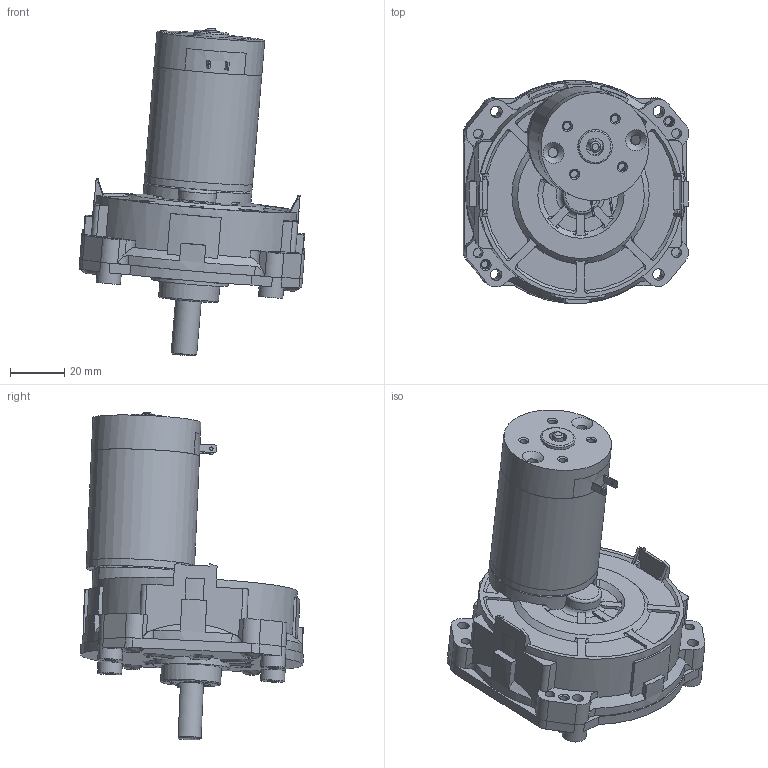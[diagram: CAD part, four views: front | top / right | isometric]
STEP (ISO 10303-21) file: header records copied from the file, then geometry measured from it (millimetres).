
FILE_DESCRIPTION(/* description */ (''),/* implementation_level */ '2;1');
FILE_NAME(/* name */ 'C:\Users\byjeong\Desktop\3D도면\SP43BT.stp',/* time_stamp */ '2015-03-31T15:40:42+09:00',/* author */ ('byjeong'),/* organization */ (''),/* preprocessor_version */ 'ST-DEVELOPER v15.6',/* originating_system */ 'Autodesk Inventor 2015',/* authorisation */ '');
FILE_SCHEMA (('AUTOMOTIVE_DESIGN { 1 0 10303 214 3 1 1 }'));
Length unit declared in the file: millimetre
Products named in the file (10): SP BOX ASSY; DC SP BOX; RM4TYPE_FRONT_HOUSING_; RM4TYPE_BRUSH_BRAKET_TERMINAL; RM4TYPE_REAR_HOUSING; REAR_HOUSING__ASS'Y_TERMINAL; RM4TYPE_PIPE_HOUSING_pi40XL40.8; RM43TYPE_SHAFT; RM43ㅁBT; SP BOX ASSY.ipt
Bounding box: 83.45 x 82.46 x 121.26 mm (x, y, z)
Volume: 96539.7 mm3; surface area: 67468.2 mm2
Topology: 8 solids, 9 shells, 653 faces, 1705 edges, 1117 vertices
Faces by surface type: plane 344, cylinder 186, cone 69, bspline 28, torus 24, sphere 2
Full cylindrical faces by diameter (mm): 1.2 x2, 2.7 x4, 2.8 x4, 3 x14, 3.05 x2, 3.4 x2, 3.5 x2, 3.6 x4, 3.7 x2, 3.969 x1, 4 x5, 4.3 x8, 4.5 x4, 5 x2, 6 x1, 6.5 x1, 6.65 x1, 9 x4, 9.5 x2, 9.54 x1, 10.5 x1, 12.5 x1, 12.7 x3, 14 x1, 14.3 x2, 14.5 x2, 16.6 x1, 17.6 x1, 22.2 x1, 28.5 x1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
Entity records: 21127 total; most frequent: CARTESIAN_POINT 5482, DIRECTION 3175, ORIENTED_EDGE 3098, EDGE_CURVE 1549, AXIS2_PLACEMENT_3D 1247, VERTEX_POINT 1087, EDGE_LOOP 894, LINE 681
